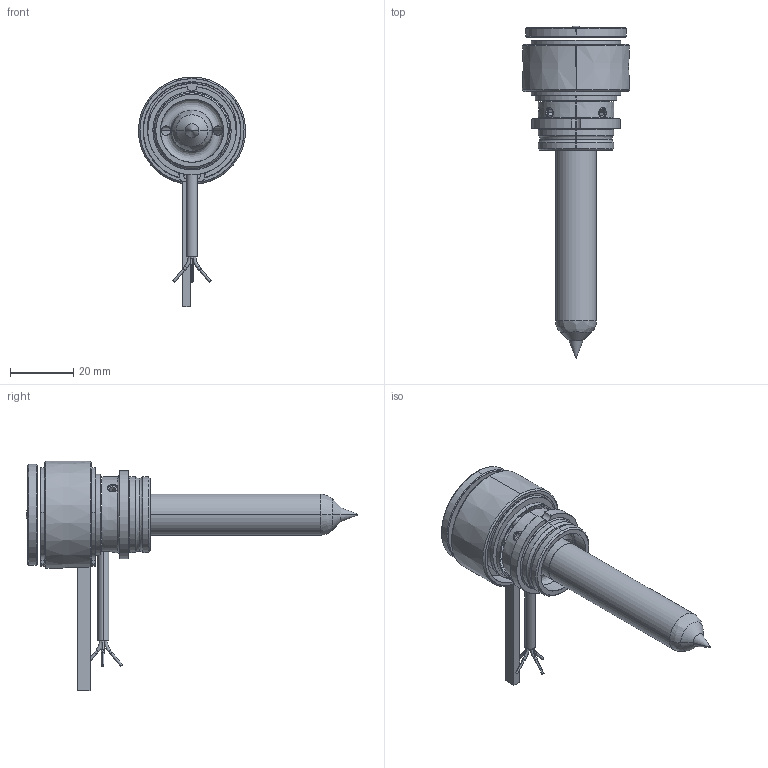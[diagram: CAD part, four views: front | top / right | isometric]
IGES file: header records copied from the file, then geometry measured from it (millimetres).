
Start section: SolidWorks IGES file using analytic representation for surfaces
Global section: file name: C:\Documents and Settings\ws-20\Desktop\TEM\UGGS2540-S-0 [Øf-0.25].IGS; native system: SolidWorks 2012; preprocessor: SolidWorks 2012; author: ws-20; date: 120516.093415; units: millimetre
Bounding box: 34 x 105.3 x 72.9 mm (x, y, z)
Surface area: 16905 mm2 (no closed solid volume)
Topology: 0 solids, 0 shells, 208 faces, 2961 edges, 2955 vertices
Faces by surface type: revolution 131, bspline 77
